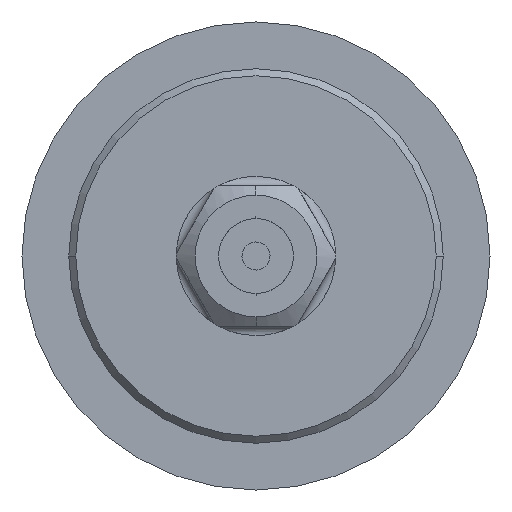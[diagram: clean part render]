
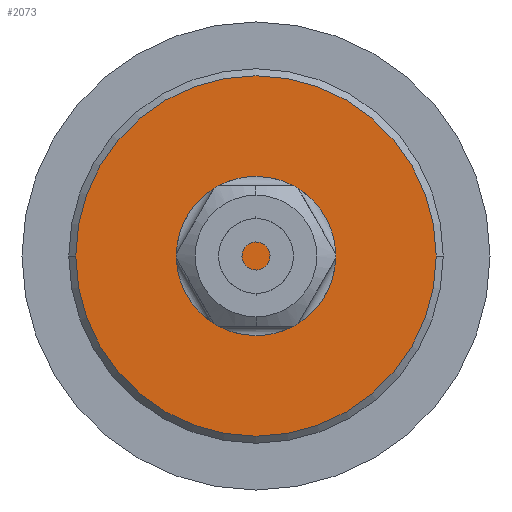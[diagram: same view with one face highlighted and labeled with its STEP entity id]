
A CAD part, front view. The second image highlights one B-rep face of the part: STEP entity #2073.
In plain terms, the highlighted planar face has unit normal (0, -1, 0) as drawn and (0, 0, 1) by its records, which use the part's own axes.
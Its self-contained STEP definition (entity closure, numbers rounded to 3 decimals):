
#228 = DIRECTION ( 'NONE',  ( 1., 0., 0. ) ) ;
#490 = DIRECTION ( 'NONE',  ( 1., 0., 0. ) ) ;
#612 = ORIENTED_EDGE ( 'NONE', *, *, #4199, .T. ) ;
#641 = AXIS2_PLACEMENT_3D ( 'NONE', #2486, #4651, #4279 ) ;
#689 = CIRCLE ( 'NONE', #3831, 38.5 ) ;
#806 = VERTEX_POINT ( 'NONE', #1127 ) ;
#1127 = CARTESIAN_POINT ( 'NONE',  ( 38.5, 0., 10.5 ) ) ;
#1295 = CARTESIAN_POINT ( 'NONE',  ( 0., 0., 10.5 ) ) ;
#1331 = EDGE_LOOP ( 'NONE', ( #4340, #612 ) ) ;
#1474 = VERTEX_POINT ( 'NONE', #3282 ) ;
#1828 = AXIS2_PLACEMENT_3D ( 'NONE', #1295, #2049, #228 ) ;
#2049 = DIRECTION ( 'NONE',  ( 0., 0., 1. ) ) ;
#2073 = ADVANCED_FACE ( 'NONE', ( #3542 ), #4637, .T. ) ;
#2264 = DIRECTION ( 'NONE',  ( 0., 0., 1. ) ) ;
#2486 = CARTESIAN_POINT ( 'NONE',  ( 0., 0., 10.5 ) ) ;
#3282 = CARTESIAN_POINT ( 'NONE',  ( -38.5, 0., 10.5 ) ) ;
#3306 = CIRCLE ( 'NONE', #1828, 38.5 ) ;
#3542 = FACE_OUTER_BOUND ( 'NONE', #1331, .T. ) ;
#3831 = AXIS2_PLACEMENT_3D ( 'NONE', #4089, #2264, #490 ) ;
#4024 = EDGE_CURVE ( 'NONE', #1474, #806, #689, .T. ) ;
#4089 = CARTESIAN_POINT ( 'NONE',  ( 0., 0., 10.5 ) ) ;
#4199 = EDGE_CURVE ( 'NONE', #806, #1474, #3306, .T. ) ;
#4279 = DIRECTION ( 'NONE',  ( 1., 0., 0. ) ) ;
#4340 = ORIENTED_EDGE ( 'NONE', *, *, #4024, .T. ) ;
#4637 = PLANE ( 'NONE',  #641 ) ;
#4651 = DIRECTION ( 'NONE',  ( 0., 0., 1. ) ) ;
